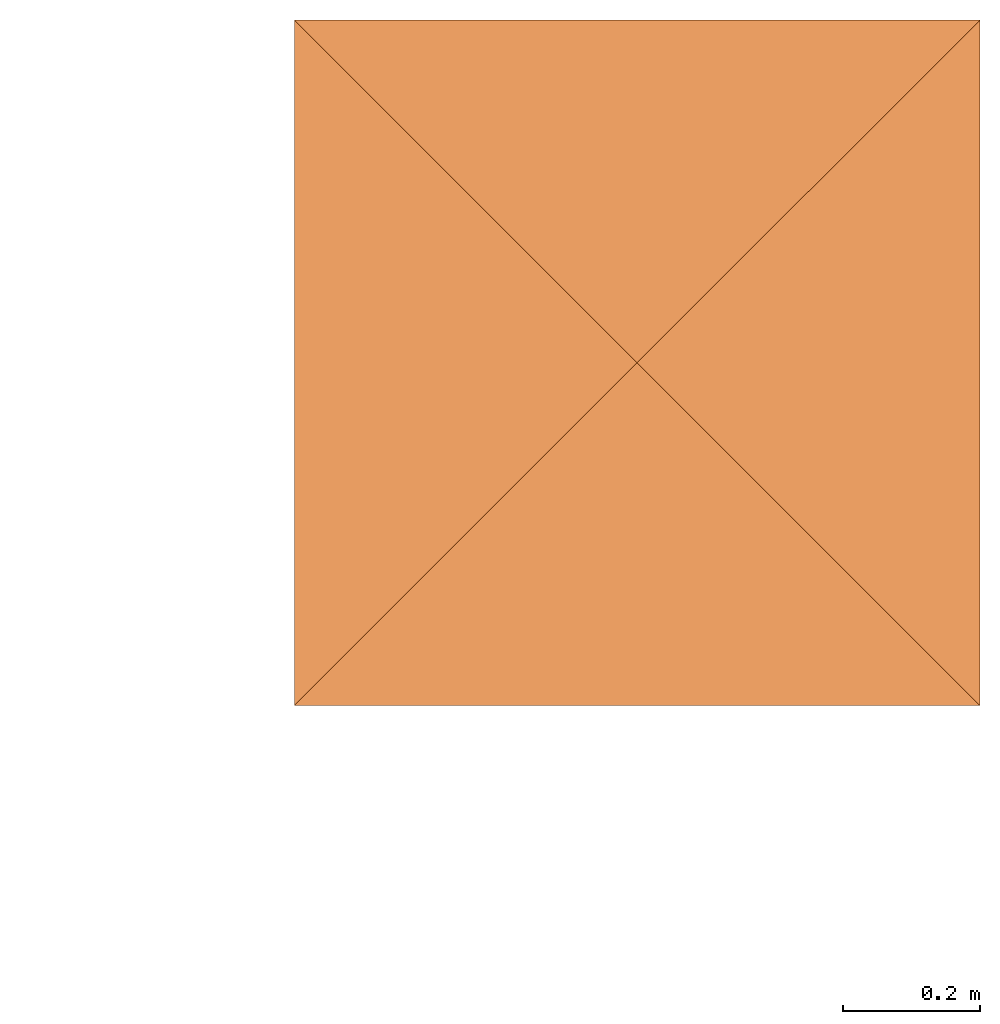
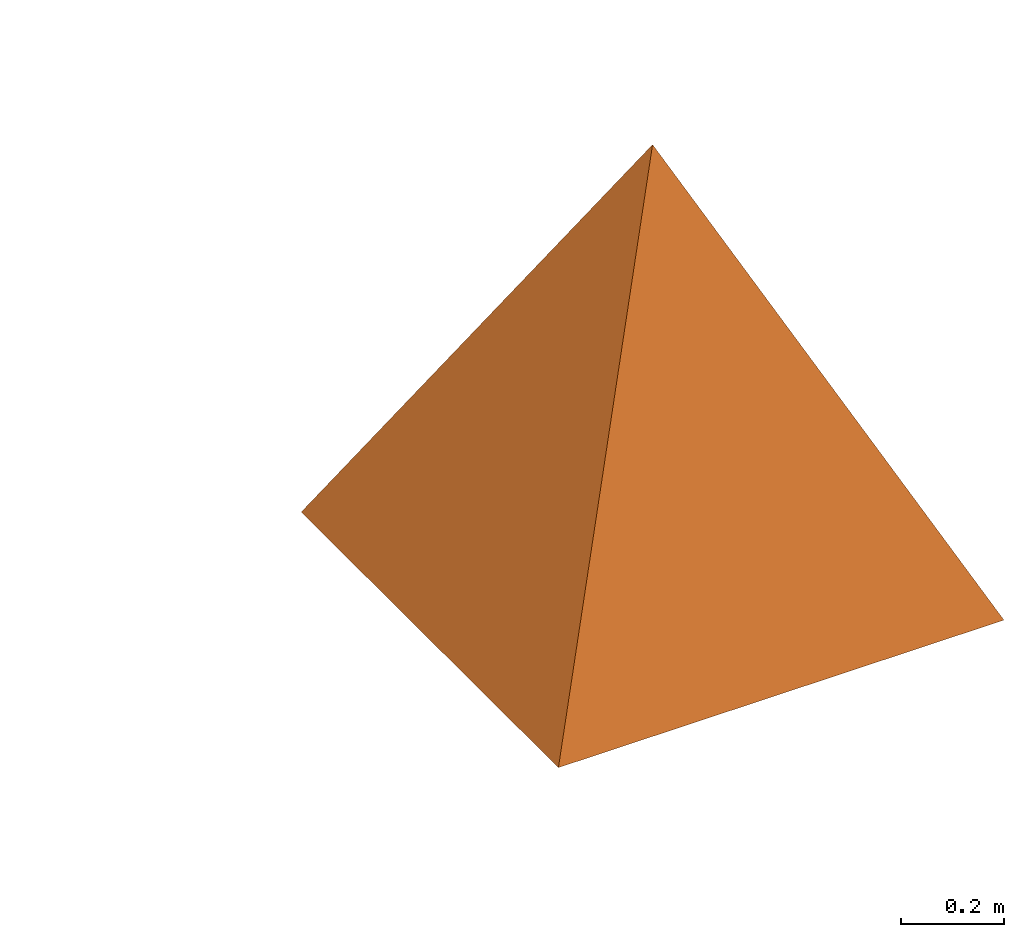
# One storey, part 9 of 9: 1 proxy.
"""IFC2X3 building model written with IfcOpenShell, lengths in metres."""

from ifc_helpers import new_model, entity, si_unit, converted_unit, derived_unit, direction, frame, origin, place, context, subcontext, project, spatial, faceted_brep, element, save


model = new_model("IFC2X3")

# Units and contexts
model_context = context("Model", 3, precision=1e-05, world=origin(), true_north=direction((0.772621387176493, -0.634867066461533)))
body_context = subcontext(model_context, "Body", "Model", "MODEL_VIEW")
ifc_project = project(units=[si_unit("LENGTHUNIT", "METRE"), si_unit("AREAUNIT", "SQUARE_METRE"), si_unit("VOLUMEUNIT", "CUBIC_METRE"), si_unit("MASSUNIT", "GRAM", prefix="KILO"), converted_unit("PLANEANGLEUNIT", "DEGREE", entity("IfcPlaneAngleMeasure", 0.0174532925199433), si_unit("PLANEANGLEUNIT", "RADIAN"), dimensions=[0, 0, 0, 0, 0, 0, 0]), derived_unit("THERMALTRANSMITTANCEUNIT", [(si_unit("POWERUNIT", "WATT"), 1), (si_unit("THERMODYNAMICTEMPERATUREUNIT", "KELVIN"), -1), (si_unit("LENGTHUNIT", "METRE"), -2)]), derived_unit("VOLUMETRICFLOWRATEUNIT", [(si_unit("LENGTHUNIT", "METRE"), 3), (converted_unit("TIMEUNIT", "hour", entity("IfcTimeMeasure", 3600.0), si_unit("TIMEUNIT", "SECOND"), dimensions=[0, 0, 1, 0, 0, 0, 0]), -1), (si_unit("LENGTHUNIT", "METRE"), -1)])], contexts=[model_context])

# Site, building, storey
site_placement = place(None, origin())
site = spatial("IfcSite", under=ifc_project, at=site_placement, Name="Modelle auf dem Nullpunkt", CompositionType="ELEMENT")
building_placement = place(site_placement, origin())
building = spatial("IfcBuilding", under=site, at=building_placement, Name="I", CompositionType="ELEMENT")
storey_placement = place(building_placement, origin())
storey = spatial("IfcBuildingStorey", under=building, at=storey_placement, Name="UG", CompositionType="ELEMENT", Elevation=0.0)

# Proxy
proxy_placement = place(storey_placement, frame((58.5313682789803, 15.3894623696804, -1.0)))
element("IfcBuildingElementProxy", 1, at=proxy_placement, inside=storey, Name="Kontrollpunkt", context=body_context, shape_type="Brep", body=[
    faceted_brep([(0.0, 1.00000000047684, 0.0), (0.0, 0.0, 0.0), (1.0, 0.0, 0.0), (1.00000000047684, 1.00000000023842, 0.0), (0.5, 0.500000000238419, 1.0)], [[[0, 1, 2, 3]], [[4, 0, 3]], [[4, 3, 2]], [[4, 2, 1]], [[4, 1, 0]]], orient=[[False], [False], [False], [False], [False]]),
])

save(model, "model.ifc")
